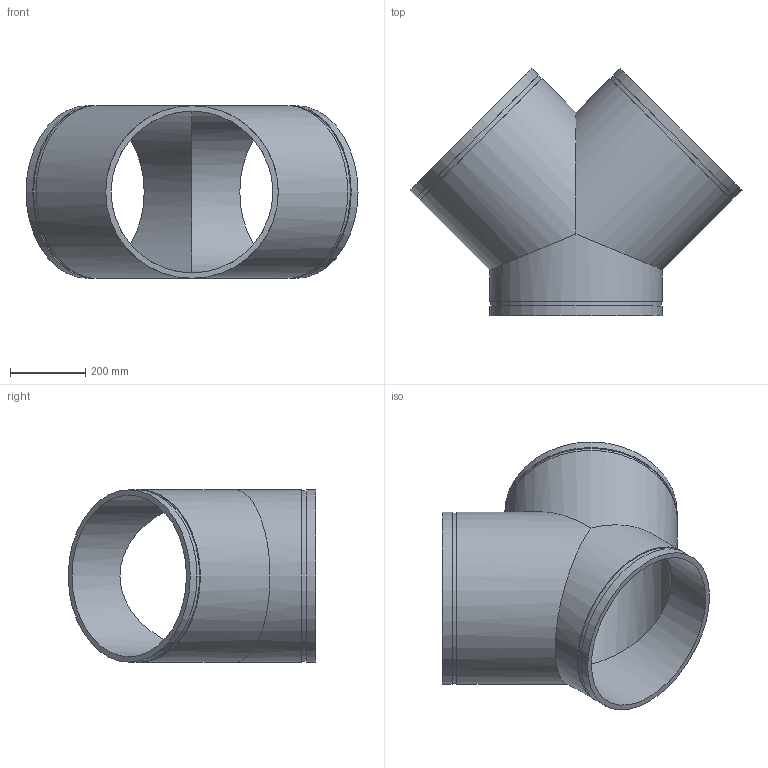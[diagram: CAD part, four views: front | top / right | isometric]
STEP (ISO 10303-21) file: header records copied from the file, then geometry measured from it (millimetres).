
FILE_DESCRIPTION(/* description */ ('This is default description.','CAx-IF Rec.Pracs.---Representation and Presentation of Product Manufacturing Information (PMI)---4.0---2014-10-13'),/* implementation_level */ '2;1');
FILE_NAME(/* name */ 'C:\Users\kkamble\AppData\Roaming\Autodesk\ApplicationPlugins\Back Up\Victaulic_IPS-Tee- Wye_ No 33 SWS (OGS)\Victaulic_IPS-Tee- Wye_ No 33 SWS (OGS)_18.stp',/* time_stamp */ '2020-09-16T22:08:49+06:00',/* author */ ('cgray'),/* organization */ ('Victaulic'),/* preprocessor_version */ 'ST-DEVELOPER v17.2',/* originating_system */ 'Autodesk Inventor 2019',/* authorisation */ '');
FILE_SCHEMA (('AP242_MANAGED_MODEL_BASED_3D_ENGINEERING_MIM_LF { 1 0 10303 442 1 1 4 }'));
Length unit declared in the file: inch
Products named in the file (1): 33 SWS-18.0
Bounding box: 880.07 x 655.93 x 457.2 mm (x, y, z)
Volume: 14681076.9 mm3; surface area: 2156777.8 mm2
Topology: 1 solids, 1 shells, 21 faces, 48 edges, 34 vertices
Faces by surface type: cylinder 12, plane 9
Full cylindrical faces by diameter (mm): 428.6 x3, 451.637 x3, 457.2 x6
Entity records: 787 total; most frequent: DIRECTION 154, CARTESIAN_POINT 121, ORIENTED_EDGE 96, AXIS2_PLACEMENT_3D 71, EDGE_CURVE 48, VERTEX_POINT 34, EDGE_LOOP 30, CIRCLE 26
